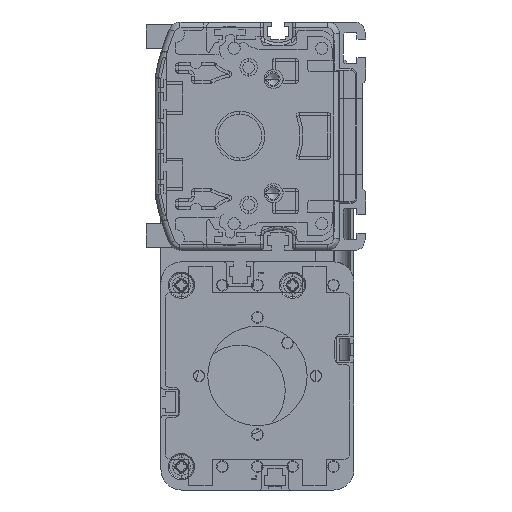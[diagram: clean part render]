
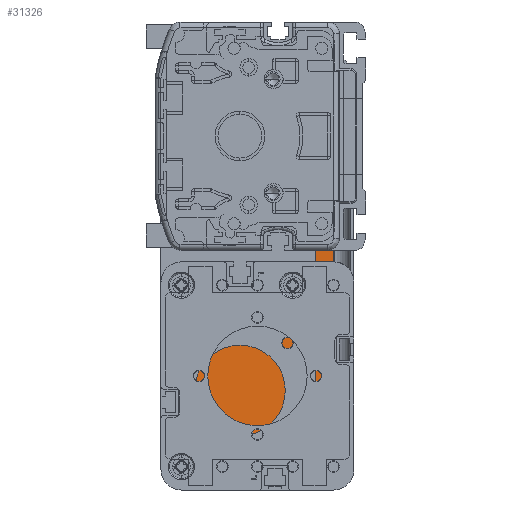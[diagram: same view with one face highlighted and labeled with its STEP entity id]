
A CAD part, left-side view. The second image highlights one B-rep face of the part: STEP entity #31326.
In plain terms, the highlighted spherical face has radius 998.8 mm.
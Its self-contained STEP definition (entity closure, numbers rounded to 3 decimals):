
#11412=CARTESIAN_POINT('',(229.,38.,-111.569));
#11413=DIRECTION('',(0.,0.,1.));
#11414=DIRECTION('',(1.,-0.026,0.));
#11415=AXIS2_PLACEMENT_3D('',#11412,#11413,#11414);
#11435=CARTESIAN_POINT('',(229.,38.,-111.569));
#11436=DIRECTION('',(0.,0.,1.));
#11437=DIRECTION('',(1.,0.007,0.));
#11438=AXIS2_PLACEMENT_3D('',#11435,#11436,#11437);
#11447=CARTESIAN_POINT('',(1225.688,44.777,
-111.569));
#11448=CARTESIAN_POINT('',(1225.741,44.493,
-110.776));
#11449=CARTESIAN_POINT('',(1225.841,43.643,
-109.292));
#11450=CARTESIAN_POINT('',(1225.952,41.684,
-107.641));
#11451=CARTESIAN_POINT('',(1226.011,39.279,
-106.764));
#11452=CARTESIAN_POINT('',(1226.011,36.72,
-106.764));
#11453=CARTESIAN_POINT('',(1225.952,34.316,
-107.642));
#11454=CARTESIAN_POINT('',(1225.841,32.356,
-109.293));
#11455=CARTESIAN_POINT('',(1225.741,31.507,
-110.776));
#11456=CARTESIAN_POINT('',(1225.688,31.223,
-111.569));
#11472=CARTESIAN_POINT('',(1225.688,31.223,17.569));
#11473=CARTESIAN_POINT('',(1225.741,31.506,16.779));
#11474=CARTESIAN_POINT('',(1225.84,32.352,15.299));
#11475=CARTESIAN_POINT('',(1225.952,34.313,13.642));
#11476=CARTESIAN_POINT('',(1226.011,36.72,12.764));
#11477=CARTESIAN_POINT('',(1226.011,39.281,12.764));
#11478=CARTESIAN_POINT('',(1225.952,41.688,13.643));
#11479=CARTESIAN_POINT('',(1225.84,43.649,15.3));
#11480=CARTESIAN_POINT('',(1225.741,44.494,16.78));
#11481=CARTESIAN_POINT('',(1225.688,44.777,17.569));
#11483=CARTESIAN_POINT('',(229.,64.152,-47.));
#11484=DIRECTION('',(0.,-1.,0.));
#11485=DIRECTION('',(0.998,0.,-0.065));
#11486=AXIS2_PLACEMENT_3D('',#11483,#11484,#11485);
#11519=CARTESIAN_POINT('',(229.,38.,17.569));
#11520=DIRECTION('',(0.,0.,-1.));
#11521=DIRECTION('',(1.,0.026,0.));
#11522=AXIS2_PLACEMENT_3D('',#11519,#11520,#11521);
#11533=CARTESIAN_POINT('',(229.,38.,17.569));
#11534=DIRECTION('',(0.,0.,-1.));
#11535=DIRECTION('',(1.,-0.007,0.));
#11536=AXIS2_PLACEMENT_3D('',#11533,#11534,#11535);
#11613=CARTESIAN_POINT('',(229.,11.848,-47.));
#11614=DIRECTION('',(0.,1.,0.));
#11615=DIRECTION('',(0.998,0.,0.065));
#11616=AXIS2_PLACEMENT_3D('',#11613,#11614,#11615);
#13124=VERTEX_POINT('',#11447);
#13125=VERTEX_POINT('',#11456);
#13126=CARTESIAN_POINT('',(1225.368,11.848,
-111.569));
#13127=VERTEX_POINT('',#13126);
#13128=CARTESIAN_POINT('',(1225.368,11.848,17.569));
#13129=VERTEX_POINT('',#13128);
#13130=CARTESIAN_POINT('',(1225.688,31.223,17.569));
#13131=VERTEX_POINT('',#13130);
#13132=VERTEX_POINT('',#11481);
#13133=CARTESIAN_POINT('',(1225.368,64.152,17.569));
#13134=VERTEX_POINT('',#13133);
#13135=CARTESIAN_POINT('',(1225.368,64.152,
-111.569));
#13136=VERTEX_POINT('',#13135);
#31306=CARTESIAN_POINT('',(229.,38.,-47.));
#31307=DIRECTION('',(0.,0.,-1.));
#31308=DIRECTION('',(1.,0.,0.));
#31309=AXIS2_PLACEMENT_3D('',#31306,#31307,#31308);
#31310=SPHERICAL_SURFACE('',#31309,998.8);
#31311=ORIENTED_EDGE('',*,*,#31297,.F.);
#31312=ORIENTED_EDGE('',*,*,#31283,.T.);
#31314=ORIENTED_EDGE('',*,*,#31313,.T.);
#31316=ORIENTED_EDGE('',*,*,#31315,.T.);
#31318=ORIENTED_EDGE('',*,*,#31317,.F.);
#31320=ORIENTED_EDGE('',*,*,#31319,.T.);
#31322=ORIENTED_EDGE('',*,*,#31321,.T.);
#31323=ORIENTED_EDGE('',*,*,#31276,.T.);
#31324=EDGE_LOOP('',(#31311,#31312,#31314,#31316,#31318,#31320,#31322,#31323));
#31325=FACE_OUTER_BOUND('',#31324,.F.);
#31326=ADVANCED_FACE('',(#31325),#31310,.F.);
#11416=CIRCLE('',#11415,996.711);
#11439=CIRCLE('',#11438,996.711);
#11457=B_SPLINE_CURVE_WITH_KNOTS('',3,(#11447,#11448,#11449,#11450,#11451,
#11452,#11453,#11454,#11455,#11456),.UNSPECIFIED.,.F.,.F.,(4,1,1,1,1,1,1,4),(
0.,0.143,0.286,0.429,0.571,
0.714,0.857,1.),.UNSPECIFIED.);
#11482=B_SPLINE_CURVE_WITH_KNOTS('',3,(#11472,#11473,#11474,#11475,#11476,
#11477,#11478,#11479,#11480,#11481),.UNSPECIFIED.,.F.,.F.,(4,1,1,1,1,1,1,4),(
0.,0.143,0.286,0.429,0.571,
0.714,0.857,1.),.UNSPECIFIED.);
#11487=CIRCLE('',#11486,998.458);
#11523=CIRCLE('',#11522,996.711);
#11537=CIRCLE('',#11536,996.711);
#11617=CIRCLE('',#11616,998.458);
#31276=EDGE_CURVE('',#13127,#13125,#11416,.T.);
#31283=EDGE_CURVE('',#13124,#13136,#11439,.T.);
#31297=EDGE_CURVE('',#13124,#13125,#11457,.T.);
#31313=EDGE_CURVE('',#13136,#13134,#11487,.T.);
#31315=EDGE_CURVE('',#13134,#13132,#11523,.T.);
#31317=EDGE_CURVE('',#13131,#13132,#11482,.T.);
#31319=EDGE_CURVE('',#13131,#13129,#11537,.T.);
#31321=EDGE_CURVE('',#13129,#13127,#11617,.T.);
